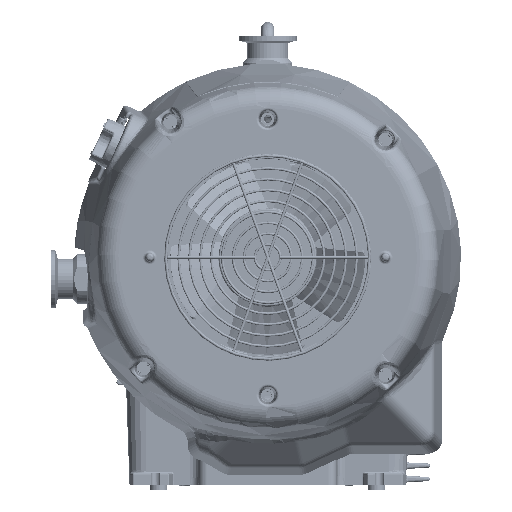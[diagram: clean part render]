
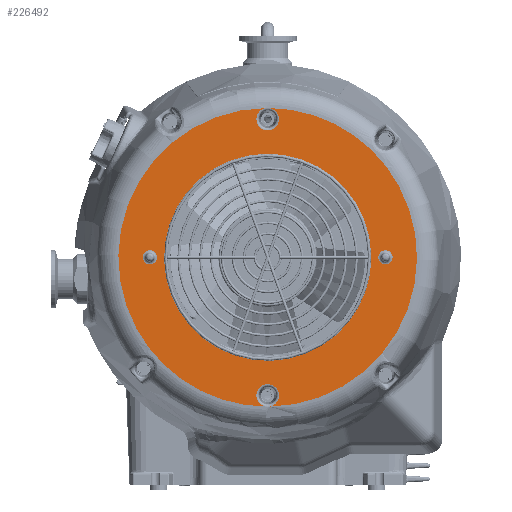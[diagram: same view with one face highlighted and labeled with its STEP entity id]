
A CAD part, left-side view. The second image highlights one B-rep face of the part: STEP entity #226492.
In plain terms, the highlighted planar face has unit normal (-1, 0, 0).
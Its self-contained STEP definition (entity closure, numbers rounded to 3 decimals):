
#217432=CARTESIAN_POINT('Vertex',(603.703,69.007,-32.218)) ;
#217435=CARTESIAN_POINT('Axis2P3D Location',(603.703,-21.099,17.007)) ;
#217439=CARTESIAN_POINT('Vertex',(603.703,-19.882,119.674)) ;
#217447=CARTESIAN_POINT('Vertex',(603.703,-22.315,119.674)) ;
#217450=CARTESIAN_POINT('Axis2P3D Location',(603.703,-21.099,17.007)) ;
#217454=CARTESIAN_POINT('Vertex',(603.703,-111.204,66.231)) ;
#220048=CARTESIAN_POINT('Axis2P3D Location',(603.703,-21.099,17.007)) ;
#220052=CARTESIAN_POINT('Vertex',(603.703,-22.315,-85.66)) ;
#220060=CARTESIAN_POINT('Vertex',(603.703,-19.882,-85.66)) ;
#220063=CARTESIAN_POINT('Axis2P3D Location',(603.703,-21.099,17.007)) ;
#226383=CARTESIAN_POINT('Axis2P3D Location',(603.703,-123.773,17.007)) ;
#226388=CARTESIAN_POINT('Axis2P3D Location',(603.703,-21.099,112.007)) ;
#226392=CARTESIAN_POINT('Vertex',(603.703,-28.861,112.007)) ;
#226395=CARTESIAN_POINT('Axis2P3D Location',(603.703,-21.099,112.007)) ;
#226399=CARTESIAN_POINT('Vertex',(603.703,-13.336,112.007)) ;
#226402=CARTESIAN_POINT('Axis2P3D Location',(603.703,-21.099,112.007)) ;
#226407=CARTESIAN_POINT('Axis2P3D Location',(603.703,-21.099,-77.993)) ;
#226411=CARTESIAN_POINT('Vertex',(603.703,-13.336,-77.993)) ;
#226414=CARTESIAN_POINT('Axis2P3D Location',(603.703,-21.099,-77.993)) ;
#226418=CARTESIAN_POINT('Vertex',(603.703,-28.861,-77.993)) ;
#226421=CARTESIAN_POINT('Axis2P3D Location',(603.703,-21.099,-77.993)) ;
#226438=CARTESIAN_POINT('Axis2P3D Location',(603.703,-102.099,17.007)) ;
#226442=CARTESIAN_POINT('Vertex',(603.703,-106.982,17.007)) ;
#226444=CARTESIAN_POINT('Vertex',(603.703,-97.215,17.007)) ;
#226447=CARTESIAN_POINT('Axis2P3D Location',(603.703,-102.099,17.007)) ;
#226456=CARTESIAN_POINT('Axis2P3D Location',(603.703,59.901,17.007)) ;
#226460=CARTESIAN_POINT('Vertex',(603.703,55.018,17.007)) ;
#226462=CARTESIAN_POINT('Vertex',(603.703,64.785,17.007)) ;
#226465=CARTESIAN_POINT('Axis2P3D Location',(603.703,59.901,17.007)) ;
#226474=CARTESIAN_POINT('Axis2P3D Location',(603.703,-21.099,17.007)) ;
#226478=CARTESIAN_POINT('Vertex',(603.703,13.068,-45.534)) ;
#226480=CARTESIAN_POINT('Vertex',(603.703,-55.265,79.548)) ;
#226483=CARTESIAN_POINT('Axis2P3D Location',(603.703,-21.099,17.007)) ;
#217436=DIRECTION('Axis2P3D Direction',(-1.,0.,0.)) ;
#217451=DIRECTION('Axis2P3D Direction',(-1.,0.,0.)) ;
#220049=DIRECTION('Axis2P3D Direction',(-1.,0.,0.)) ;
#220064=DIRECTION('Axis2P3D Direction',(-1.,0.,0.)) ;
#226384=DIRECTION('Axis2P3D Direction',(-1.,0.,0.)) ;
#226385=DIRECTION('Axis2P3D XDirection',(0.,-1.,0.)) ;
#226389=DIRECTION('Axis2P3D Direction',(-1.,0.,0.)) ;
#226396=DIRECTION('Axis2P3D Direction',(-1.,0.,0.)) ;
#226403=DIRECTION('Axis2P3D Direction',(-1.,0.,0.)) ;
#226408=DIRECTION('Axis2P3D Direction',(-1.,0.,0.)) ;
#226415=DIRECTION('Axis2P3D Direction',(-1.,0.,0.)) ;
#226422=DIRECTION('Axis2P3D Direction',(-1.,0.,0.)) ;
#226439=DIRECTION('Axis2P3D Direction',(-1.,0.,0.)) ;
#226448=DIRECTION('Axis2P3D Direction',(-1.,0.,0.)) ;
#226457=DIRECTION('Axis2P3D Direction',(-1.,0.,0.)) ;
#226466=DIRECTION('Axis2P3D Direction',(-1.,0.,0.)) ;
#226475=DIRECTION('Axis2P3D Direction',(-1.,0.,0.)) ;
#226484=DIRECTION('Axis2P3D Direction',(-1.,0.,0.)) ;
#217437=AXIS2_PLACEMENT_3D('Circle Axis2P3D',#217435,#217436,$) ;
#217452=AXIS2_PLACEMENT_3D('Circle Axis2P3D',#217450,#217451,$) ;
#220050=AXIS2_PLACEMENT_3D('Circle Axis2P3D',#220048,#220049,$) ;
#220065=AXIS2_PLACEMENT_3D('Circle Axis2P3D',#220063,#220064,$) ;
#226386=AXIS2_PLACEMENT_3D('Plane Axis2P3D',#226383,#226384,#226385) ;
#226390=AXIS2_PLACEMENT_3D('Circle Axis2P3D',#226388,#226389,$) ;
#226397=AXIS2_PLACEMENT_3D('Circle Axis2P3D',#226395,#226396,$) ;
#226404=AXIS2_PLACEMENT_3D('Circle Axis2P3D',#226402,#226403,$) ;
#226409=AXIS2_PLACEMENT_3D('Circle Axis2P3D',#226407,#226408,$) ;
#226416=AXIS2_PLACEMENT_3D('Circle Axis2P3D',#226414,#226415,$) ;
#226423=AXIS2_PLACEMENT_3D('Circle Axis2P3D',#226421,#226422,$) ;
#226440=AXIS2_PLACEMENT_3D('Circle Axis2P3D',#226438,#226439,$) ;
#226449=AXIS2_PLACEMENT_3D('Circle Axis2P3D',#226447,#226448,$) ;
#226458=AXIS2_PLACEMENT_3D('Circle Axis2P3D',#226456,#226457,$) ;
#226467=AXIS2_PLACEMENT_3D('Circle Axis2P3D',#226465,#226466,$) ;
#226476=AXIS2_PLACEMENT_3D('Circle Axis2P3D',#226474,#226475,$) ;
#226485=AXIS2_PLACEMENT_3D('Circle Axis2P3D',#226483,#226484,$) ;
#226427=ORIENTED_EDGE('',*,*,#220054,.T.) ;
#226428=ORIENTED_EDGE('',*,*,#217456,.T.) ;
#226429=ORIENTED_EDGE('',*,*,#226394,.T.) ;
#226430=ORIENTED_EDGE('',*,*,#226401,.T.) ;
#226431=ORIENTED_EDGE('',*,*,#226406,.T.) ;
#226432=ORIENTED_EDGE('',*,*,#217441,.T.) ;
#226433=ORIENTED_EDGE('',*,*,#220067,.T.) ;
#226434=ORIENTED_EDGE('',*,*,#226413,.T.) ;
#226435=ORIENTED_EDGE('',*,*,#226420,.T.) ;
#226436=ORIENTED_EDGE('',*,*,#226425,.T.) ;
#226453=ORIENTED_EDGE('',*,*,#226446,.F.) ;
#226454=ORIENTED_EDGE('',*,*,#226451,.F.) ;
#226471=ORIENTED_EDGE('',*,*,#226464,.F.) ;
#226472=ORIENTED_EDGE('',*,*,#226469,.F.) ;
#226489=ORIENTED_EDGE('',*,*,#226482,.F.) ;
#226490=ORIENTED_EDGE('',*,*,#226487,.F.) ;
#226455=FACE_BOUND('',#226452,.T.) ;
#226473=FACE_BOUND('',#226470,.T.) ;
#226491=FACE_BOUND('',#226488,.T.) ;
#226492=ADVANCED_FACE('TTECH5898.1\\A73501008.1\\A25908417.1\\PartBody',(#226437,#226455,#226473,#226491),#226387,.T.) ;
#217438=CIRCLE('generated circle',#217437,102.674) ;
#217453=CIRCLE('generated circle',#217452,102.674) ;
#220051=CIRCLE('generated circle',#220050,102.674) ;
#220066=CIRCLE('generated circle',#220065,102.674) ;
#226391=CIRCLE('generated circle',#226390,7.763) ;
#226398=CIRCLE('generated circle',#226397,7.763) ;
#226405=CIRCLE('generated circle',#226404,7.763) ;
#226410=CIRCLE('generated circle',#226409,7.763) ;
#226417=CIRCLE('generated circle',#226416,7.763) ;
#226424=CIRCLE('generated circle',#226423,7.763) ;
#226441=CIRCLE('generated circle',#226440,4.884) ;
#226450=CIRCLE('generated circle',#226449,4.884) ;
#226459=CIRCLE('generated circle',#226458,4.884) ;
#226468=CIRCLE('generated circle',#226467,4.884) ;
#226477=CIRCLE('generated circle',#226476,71.265) ;
#226486=CIRCLE('generated circle',#226485,71.265) ;
#217441=EDGE_CURVE('',#217440,#217433,#217438,.T.) ;
#217456=EDGE_CURVE('',#217455,#217448,#217453,.T.) ;
#220054=EDGE_CURVE('',#220053,#217455,#220051,.T.) ;
#220067=EDGE_CURVE('',#217433,#220061,#220066,.T.) ;
#226394=EDGE_CURVE('',#217448,#226393,#226391,.F.) ;
#226401=EDGE_CURVE('',#226393,#226400,#226398,.F.) ;
#226406=EDGE_CURVE('',#226400,#217440,#226405,.F.) ;
#226413=EDGE_CURVE('',#220061,#226412,#226410,.F.) ;
#226420=EDGE_CURVE('',#226412,#226419,#226417,.F.) ;
#226425=EDGE_CURVE('',#226419,#220053,#226424,.F.) ;
#226446=EDGE_CURVE('',#226443,#226445,#226441,.T.) ;
#226451=EDGE_CURVE('',#226445,#226443,#226450,.T.) ;
#226464=EDGE_CURVE('',#226461,#226463,#226459,.T.) ;
#226469=EDGE_CURVE('',#226463,#226461,#226468,.T.) ;
#226482=EDGE_CURVE('',#226479,#226481,#226477,.T.) ;
#226487=EDGE_CURVE('',#226481,#226479,#226486,.T.) ;
#226426=EDGE_LOOP('',(#226427,#226428,#226429,#226430,#226431,#226432,#226433,#226434,#226435,#226436)) ;
#226452=EDGE_LOOP('',(#226453,#226454)) ;
#226470=EDGE_LOOP('',(#226471,#226472)) ;
#226488=EDGE_LOOP('',(#226489,#226490)) ;
#226437=FACE_OUTER_BOUND('',#226426,.T.) ;
#226387=PLANE('',#226386) ;
#217433=VERTEX_POINT('',#217432) ;
#217440=VERTEX_POINT('',#217439) ;
#217448=VERTEX_POINT('',#217447) ;
#217455=VERTEX_POINT('',#217454) ;
#220053=VERTEX_POINT('',#220052) ;
#220061=VERTEX_POINT('',#220060) ;
#226393=VERTEX_POINT('',#226392) ;
#226400=VERTEX_POINT('',#226399) ;
#226412=VERTEX_POINT('',#226411) ;
#226419=VERTEX_POINT('',#226418) ;
#226443=VERTEX_POINT('',#226442) ;
#226445=VERTEX_POINT('',#226444) ;
#226461=VERTEX_POINT('',#226460) ;
#226463=VERTEX_POINT('',#226462) ;
#226479=VERTEX_POINT('',#226478) ;
#226481=VERTEX_POINT('',#226480) ;
